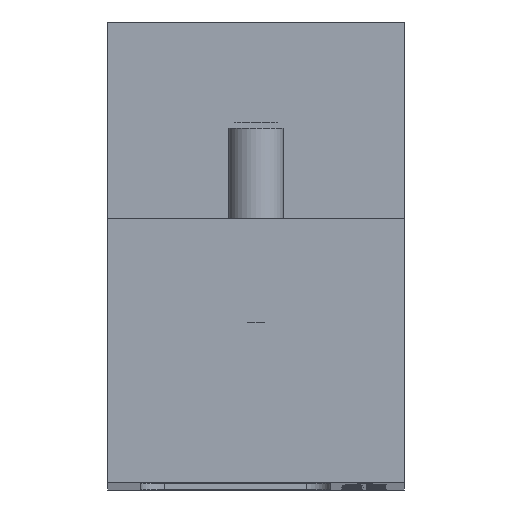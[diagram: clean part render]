
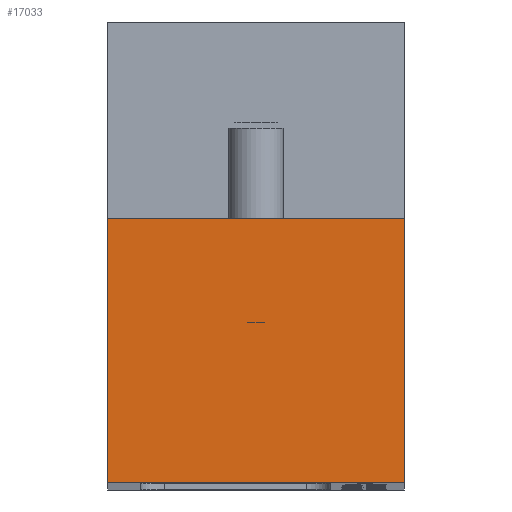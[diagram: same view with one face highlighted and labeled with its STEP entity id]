
A CAD part, top view. The second image highlights one B-rep face of the part: STEP entity #17033.
In plain terms, the highlighted planar face has unit normal (0, 0, 1).
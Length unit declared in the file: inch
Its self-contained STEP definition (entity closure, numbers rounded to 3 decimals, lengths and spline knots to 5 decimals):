
#899=CARTESIAN_POINT('',(0.0,0.66,10.48));
#900=VERTEX_POINT('',#899);
#907=CARTESIAN_POINT('',(0.0,0.0,10.48));
#908=VERTEX_POINT('',#907);
#909=CARTESIAN_POINT('',(0.0,0.66,10.48));
#910=DIRECTION('',(0.0,-1.0,0.0));
#911=VECTOR('',#910,0.66);
#912=LINE('',#909,#911);
#913=EDGE_CURVE('',#900,#908,#912,.T.);
#3688=CARTESIAN_POINT('',(-0.74,0.0,10.48));
#3689=VERTEX_POINT('',#3688);
#3705=CARTESIAN_POINT('',(0.0,0.0,10.48));
#3706=DIRECTION('',(-1.0,0.0,0.0));
#3707=VECTOR('',#3706,0.74);
#3708=LINE('',#3705,#3707);
#3709=EDGE_CURVE('',#908,#3689,#3708,.T.);
#16987=CARTESIAN_POINT('',(-0.74,0.66,10.48));
#16988=VERTEX_POINT('',#16987);
#16995=CARTESIAN_POINT('',(0.0,0.66,10.48));
#16996=DIRECTION('',(-1.0,0.0,0.0));
#16997=VECTOR('',#16996,0.74);
#16998=LINE('',#16995,#16997);
#16999=EDGE_CURVE('',#900,#16988,#16998,.T.);
#17017=CARTESIAN_POINT('',(0.0,0.66,10.48));
#17018=DIRECTION('',(0.0,0.0,1.0));
#17019=DIRECTION('',(1.0,0.0,0.0));
#17020=AXIS2_PLACEMENT_3D('',#17017,#17018,#17019);
#17021=PLANE('',#17020);
#17022=CARTESIAN_POINT('',(-0.74,0.66,10.48));
#17023=DIRECTION('',(0.0,-1.0,0.0));
#17024=VECTOR('',#17023,0.66);
#17025=LINE('',#17022,#17024);
#17026=EDGE_CURVE('',#16988,#3689,#17025,.T.);
#17027=ORIENTED_EDGE('',*,*,#17026,.T.);
#17028=ORIENTED_EDGE('',*,*,#3709,.F.);
#17029=ORIENTED_EDGE('',*,*,#913,.F.);
#17030=ORIENTED_EDGE('',*,*,#16999,.T.);
#17031=EDGE_LOOP('',(#17027,#17028,#17029,#17030));
#17032=FACE_OUTER_BOUND('',#17031,.T.);
#17033=ADVANCED_FACE('',(#17032),#17021,.T.);
